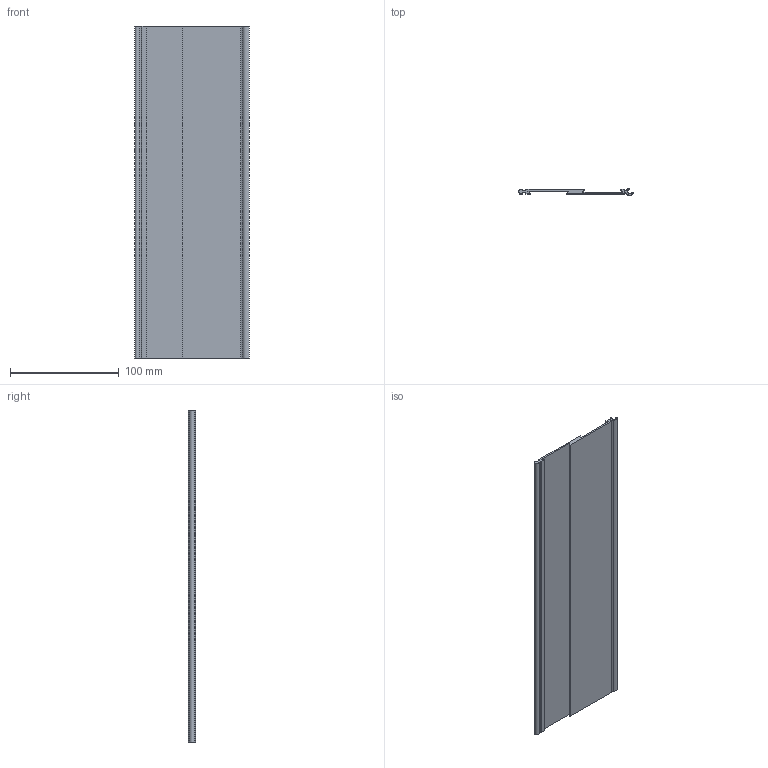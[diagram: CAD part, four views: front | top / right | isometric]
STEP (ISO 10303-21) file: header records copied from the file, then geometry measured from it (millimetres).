
FILE_DESCRIPTION((''),'2;1');
FILE_NAME('EAP-10L8_L12','2025-02-21T18:16:26',('R&D'),(''),'CREO PARAMETRIC BY PTC INC, 2021063','CREO PARAMETRIC BY PTC INC, 2021063','');
FILE_SCHEMA(('CONFIG_CONTROL_DESIGN'));
Length unit declared in the file: millimetre
Products named in the file (1): EAP-10L8_L12
Bounding box: 105.17 x 6.44 x 304.8 mm (x, y, z)
Volume: 68268.6 mm3; surface area: 75958 mm2
Topology: 1 solids, 1 shells, 45 faces, 129 edges, 86 vertices
Faces by surface type: plane 31, cylinder 14
Entity records: 1512 total; most frequent: CARTESIAN_POINT 266, ORIENTED_EDGE 258, DIRECTION 245, EDGE_CURVE 129, VECTOR 101, LINE 101, VERTEX_POINT 86, AXIS2_PLACEMENT_3D 72
